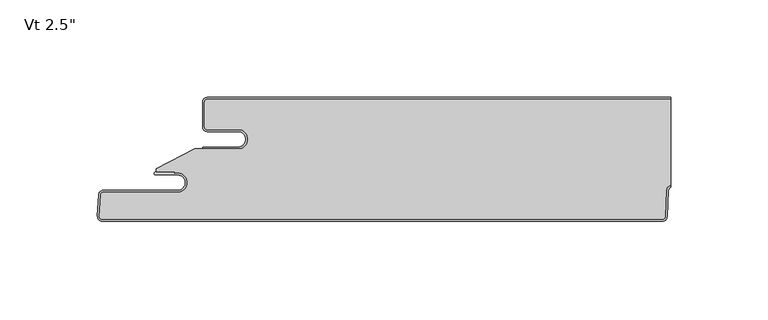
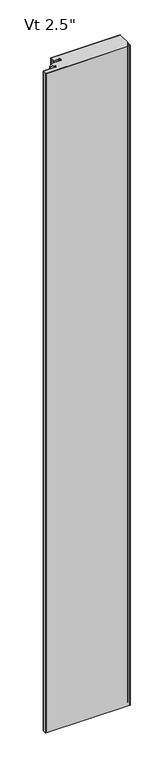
"""IFC4 building model written with IfcOpenShell, lengths in millimetres: plate geometry."""

import ifcopenshell
import ifcopenshell.guid

model = None  # the IFC model being written
_history = None  # IfcOwnerHistory: only IFC2X3 demands one
_inside = {}  # id of a spatial element -> (the spatial element, [elements in it])
_under = {}  # id of a project, library or spatial element -> (it, [spatial elements below it])
_declared = {}  # id of a project -> (the project, [libraries it declares])
_typed = {}  # id of a type object -> (the type object, [elements of that type])
_made_of = {}  # id of a material, layer set ... -> (it, [elements and type objects made of it])


def new_model(schema):
    """Start an empty IFC model of exactly this schema.

    Asked for "IFC4X3", IfcOpenShell would pick the latest addendum, in which some entities
    have other attributes; the version numbers below select the first issue.
    IFC2X3 requires an IfcOwnerHistory on every rooted entity: one is made here for all.
    """
    global model, _history
    if schema == "IFC4X3":
        model = ifcopenshell.file(schema_version=(4, 3, 0, 0))
    else:
        model = ifcopenshell.file(schema=schema)
    _inside.clear()
    _under.clear()
    _declared.clear()
    _typed.clear()
    _made_of.clear()
    _history = None
    if model.schema == "IFC2X3":
        org = make("IfcOrganization", Name="unknown")
        user = make(
            "IfcPersonAndOrganization",
            ThePerson=make("IfcPerson", FamilyName="unknown"),
            TheOrganization=org,
        )
        app = make(
            "IfcApplication",
            ApplicationDeveloper=org,
            Version="unknown",
            ApplicationFullName="unknown",
            ApplicationIdentifier="unknown",
        )
        _history = make(
            "IfcOwnerHistory",
            OwningUser=user,
            OwningApplication=app,
            ChangeAction="ADDED",
            CreationDate=0,
        )
    return model


def make(cls, **values):
    """One entity of the class cls with the attributes given. An attribute that is None is left unset."""
    return model.create_entity(
        cls, **{name: value for name, value in values.items() if value is not None}
    )


def rooted(cls, **values):
    """An entity with a GlobalId (a new one), such as an element, a storey or a relation."""
    return make(cls, GlobalId=ifcopenshell.guid.new(), OwnerHistory=_history, **values)


def si_unit(unit_type, name, prefix=None):
    """IfcSIUnit, for example si_unit("LENGTHUNIT", "METRE", prefix="MILLI")."""
    return make("IfcSIUnit", UnitType=unit_type, Prefix=prefix, Name=name)


def assignment(units):
    """IfcUnitAssignment: the units of a project."""
    return None if units is None else make("IfcUnitAssignment", Units=units)


def point(xyz):
    """IfcCartesianPoint."""
    return None if xyz is None else make("IfcCartesianPoint", Coordinates=xyz)


def direction(xyz):
    """IfcDirection."""
    return None if xyz is None else make("IfcDirection", DirectionRatios=xyz)


def frame(location, z_axis=None, x_axis=None):
    """IfcAxis2Placement3D, a coordinate frame: its origin and axes. An axis left out is left unset."""
    return make(
        "IfcAxis2Placement3D",
        Location=point(location),
        Axis=direction(z_axis),
        RefDirection=direction(x_axis),
    )


def frame_2d(location, x_axis=None):
    """IfcAxis2Placement2D, a coordinate frame in the plane: its origin and x axis."""
    return make(
        "IfcAxis2Placement2D", Location=point(location), RefDirection=direction(x_axis)
    )


def origin():
    """The frame at (0, 0, 0) with its axes left unset."""
    return frame((0.0, 0.0, 0.0))


def origin_with_axes():
    """The frame at (0, 0, 0) with the z axis (0, 0, 1) and the x axis (1, 0, 0) written out."""
    return frame((0.0, 0.0, 0.0), z_axis=(0.0, 0.0, 1.0), x_axis=(1.0, 0.0, 0.0))


def place(relative_to, where):
    """IfcLocalPlacement: puts the frame where relative to a parent placement (None: the world)."""
    return make(
        "IfcLocalPlacement", PlacementRelTo=relative_to, RelativePlacement=where
    )


def context(
    kind, dimensions, precision=None, world=None, true_north=None, identifier=None
):
    """IfcGeometricRepresentationContext, for example the 3D "Model" context."""
    return make(
        "IfcGeometricRepresentationContext",
        ContextIdentifier=identifier,
        ContextType=kind,
        CoordinateSpaceDimension=dimensions,
        Precision=precision,
        WorldCoordinateSystem=world,
        TrueNorth=true_north,
    )


def project(units=None, contexts=None):
    """IfcProject with its units and contexts."""
    return rooted(
        "IfcProject",
        Name="project",
        RepresentationContexts=contexts,
        UnitsInContext=assignment(units),
    )


def spatial(cls, under=None, at=None, **own):
    """A site, building, storey or space (cls), placed at a placement, below another one or the project."""
    s = rooted(cls, ObjectPlacement=at, **own)
    if under is not None:
        _under.setdefault(under.id(), (under, []))[1].append(s)
    return s


def polyline(points):
    """IfcPolyline through the points."""
    return make("IfcPolyline", Points=[point(p) for p in points])


def circle_curve(where, radius):
    """IfcCircle in the frame where."""
    return make("IfcCircle", Position=where, Radius=radius)


def trimmed(basis, trim1, trim2, sense, master):
    """IfcTrimmedCurve: the piece of a basis curve between two trims."""
    return make(
        "IfcTrimmedCurve",
        BasisCurve=basis,
        Trim1=trim1,
        Trim2=trim2,
        SenseAgreement=sense,
        MasterRepresentation=master,
    )


def segment(curve, same_sense, transition):
    """IfcCompositeCurveSegment."""
    return make(
        "IfcCompositeCurveSegment",
        Transition=transition,
        SameSense=same_sense,
        ParentCurve=curve,
    )


def composite_curve(segments, self_intersect=None):
    """IfcCompositeCurve: segments joined end to end."""
    return make("IfcCompositeCurve", Segments=segments, SelfIntersect=self_intersect)


def outline(outer, holes=None, kind="AREA"):
    """IfcArbitraryClosedProfileDef: a profile drawn as a closed curve; with holes, ...WithVoids."""
    if holes is None:
        return make("IfcArbitraryClosedProfileDef", ProfileType=kind, OuterCurve=outer)
    return make(
        "IfcArbitraryProfileDefWithVoids",
        ProfileType=kind,
        OuterCurve=outer,
        InnerCurves=holes,
    )


def extrude(swept, where, along, depth):
    """IfcExtrudedAreaSolid: the profile swept, set in the frame where, extruded along a direction by depth."""
    return make(
        "IfcExtrudedAreaSolid",
        SweptArea=swept,
        Position=where,
        ExtrudedDirection=direction(along),
        Depth=depth,
    )


def shape(context_of_items, identifier, shape_type, items):
    """IfcShapeRepresentation: the items that make up one representation, for example the "Body"."""
    return make(
        "IfcShapeRepresentation",
        ContextOfItems=context_of_items,
        RepresentationIdentifier=identifier,
        RepresentationType=shape_type,
        Items=items,
    )


def source(mapping_origin, context_of_items, identifier, shape_type, items):
    """IfcRepresentationMap: a shape defined once, which mapped items show again and again."""
    return make(
        "IfcRepresentationMap",
        MappingOrigin=mapping_origin,
        MappedRepresentation=shape(context_of_items, identifier, shape_type, items),
    )


def transform(
    local_origin,
    x_axis=None,
    y_axis=None,
    z_axis=None,
    scale=None,
    scale2=None,
    scale3=None,
    uniform=True,
):
    """IfcCartesianTransformationOperator3D, or its non-uniform kind. x_axis, y_axis, z_axis: its Axis1, 2, 3."""
    if uniform:
        return make(
            "IfcCartesianTransformationOperator3D",
            Axis1=direction(x_axis),
            Axis2=direction(y_axis),
            LocalOrigin=point(local_origin),
            Scale=scale,
            Axis3=direction(z_axis),
        )
    return make(
        "IfcCartesianTransformationOperator3DnonUniform",
        Axis1=direction(x_axis),
        Axis2=direction(y_axis),
        LocalOrigin=point(local_origin),
        Scale=scale,
        Axis3=direction(z_axis),
        Scale2=scale2,
        Scale3=scale3,
    )


def mapped(mapping_source, mapping_target):
    """IfcMappedItem: shows the shape of a source again, moved by a transform."""
    return make(
        "IfcMappedItem", MappingSource=mapping_source, MappingTarget=mapping_target
    )


def made_of(thing, what):
    """Note that an element or type object is made of a material, layer set ...; save() writes the relation."""
    if what is not None:
        _made_of.setdefault(what.id(), (what, []))[1].append(thing)
    return thing


def element(
    cls,
    number,
    at=None,
    inside=None,
    cuts=None,
    type_object=None,
    material=None,
    context=None,
    identifier="Body",
    shape_type=None,
    held_by="IfcProductDefinitionShape",
    body=None,
    shapes=None,
    **own,
):
    """One element of the class cls, such as IfcWall. Its Tag is "e" and its number.

    at: its placement. inside: the storey or other place that contains it. cuts: it is an
    opening in that element (IfcRelVoidsElement). A single representation is given by context,
    identifier, shape_type and body (its items); several are given by shapes. held_by: the class
    of the entity that holds the representations. save() writes the other relations.
    """
    e = rooted(cls, Tag="e%d" % number, ObjectPlacement=at, **own)
    if body is not None:
        shapes = [shape(context, identifier, shape_type, body)]
    if shapes is not None:
        e.Representation = make(held_by, Representations=shapes)
    if inside is not None:
        _inside.setdefault(inside.id(), (inside, []))[1].append(e)
    if cuts is not None:
        rooted(
            "IfcRelVoidsElement", RelatingBuildingElement=cuts, RelatedOpeningElement=e
        )
    if type_object is not None:
        _typed.setdefault(type_object.id(), (type_object, []))[1].append(e)
    return made_of(e, material)


def aggregate(whole, parts):
    """IfcRelAggregates: a whole, such as a stair, and the parts it consists of."""
    return rooted("IfcRelAggregates", RelatingObject=whole, RelatedObjects=parts)


def save(model, path):
    """Write the relations noted so far, then the file.

    IfcRelAggregates (storeys below a building ...), IfcRelContainedInSpatialStructure (elements
    in a storey), IfcRelDefinesByType, IfcRelAssociatesMaterial and IfcRelDeclares: one each for
    every whole, place, type object, material and project.
    """
    for whole, parts in _under.values():
        aggregate(whole, parts)
    for where, things in _inside.values():
        rooted(
            "IfcRelContainedInSpatialStructure",
            RelatedElements=things,
            RelatingStructure=where,
        )
    for kind, things in _typed.values():
        rooted("IfcRelDefinesByType", RelatedObjects=things, RelatingType=kind)
    for what, things in _made_of.values():
        rooted("IfcRelAssociatesMaterial", RelatedObjects=things, RelatingMaterial=what)
    for by, libraries in _declared.values():
        rooted("IfcRelDeclares", RelatingContext=by, RelatedDefinitions=libraries)
    model.write(path)


def plate_451096ce(model_context):
    return source(origin(), model_context, "Body", "SweptSolid", [
        extrude(outline(composite_curve([segment(polyline([(-101.3437498, -16.4625), (-117.2187498, -16.4625)]), True, "CONTINUOUS"), segment(trimmed(circle_curve(frame_2d((-117.2187498, -15.08125)), 1.38125), [point((-117.2187498, -16.4625))], [point((-118.5999998, -15.08125))], False, "CARTESIAN"), True, "CONTINUOUS"), segment(polyline([(-118.5999998, -15.08125), (-118.5999998, -2.38125)]), True, "CONTINUOUS"), segment(trimmed(circle_curve(frame_2d((-117.2187498, -2.38125)), 1.38125), [point((-118.5999998, -2.38125))], [point((-117.2187498, -1.0))], False, "CARTESIAN"), True, "CONTINUOUS"), segment(polyline([(-117.2187498, -1.0), (120.4062498, -1.0), (120.4062498, -45.091556)]), True, "CONTINUOUS"), segment(trimmed(circle_curve(frame_2d((120.9323848, -47.625)), 2.5875), [point((120.4062498, -45.091556))], [point((118.3484309, -47.4895807))], True, "CARTESIAN"), True, "CONTINUOUS"), segment(polyline([(118.3484309, -47.4895807), (117.6303679, -61.191039)]), True, "CONTINUOUS"), segment(trimmed(circle_curve(frame_2d((116.2510108, -61.11875)), 1.38125), [point((117.6303679, -61.191039))], [point((116.2510108, -62.5))], False, "CARTESIAN"), True, "CONTINUOUS"), segment(polyline([(116.2510108, -62.5), (-171.0799534, -62.5)]), True, "CONTINUOUS"), segment(trimmed(circle_curve(frame_2d((-171.0799534, -61.11875)), 1.38125), [point((-171.0799534, -62.5))], [point((-172.4593104, -61.046461))], False, "CARTESIAN"), True, "CONTINUOUS"), segment(polyline([(-172.4593104, -61.046461), (-171.876929, -49.933961)]), True, "CONTINUOUS"), segment(trimmed(circle_curve(frame_2d((-170.4975719, -50.00625)), 1.38125), [point((-171.876929, -49.933961))], [point((-170.4975719, -48.625))], False, "CARTESIAN"), True, "CONTINUOUS"), segment(polyline([(-170.4975719, -48.625), (-132.3142673, -48.625)]), True, "CONTINUOUS"), segment(trimmed(circle_curve(frame_2d((-132.3142673, -43.65625)), 4.96875), [point((-132.3142673, -48.625))], [point((-132.3142673, -38.6875))], True, "CARTESIAN"), True, "CONTINUOUS"), segment(polyline([(-132.3142673, -38.6875), (-133.9017673, -38.89375), (-133.9017673, -38.1), (-143.4124998, -38.1), (-143.4124998, -36.5326309), (-123.5260921, -26.4), (-101.3437498, -26.4)]), True, "CONTINUOUS"), segment(trimmed(circle_curve(frame_2d((-101.3437498, -21.43125)), 4.96875), [point((-101.3437498, -26.4))], [point((-101.3437498, -16.4625))], True, "CARTESIAN"), True, "CONTINUOUS")], self_intersect=False)), origin_with_axes(), (0.0, 0.0, 1.0), 2400.0),
        extrude(outline(composite_curve([segment(polyline([(-119.5999998, -25.4), (-101.3437498, -25.4)]), True, "CONTINUOUS"), segment(trimmed(circle_curve(frame_2d((-101.3437498, -21.43125)), 3.96875), [point((-101.3437498, -25.4))], [point((-101.3437498, -17.4625))], True, "CARTESIAN"), True, "CONTINUOUS"), segment(polyline([(-101.3437498, -17.4625), (-117.2187498, -17.4625)]), True, "CONTINUOUS"), segment(trimmed(circle_curve(frame_2d((-117.2187498, -15.08125)), 2.38125), [point((-117.2187498, -17.4625))], [point((-119.5999998, -15.08125))], False, "CARTESIAN"), True, "CONTINUOUS"), segment(polyline([(-119.5999998, -15.08125), (-119.5999998, -2.38125)]), True, "CONTINUOUS"), segment(trimmed(circle_curve(frame_2d((-117.2187498, -2.38125)), 2.38125), [point((-119.5999998, -2.38125))], [point((-117.2187498, 0.0))], False, "CARTESIAN"), True, "CONTINUOUS"), segment(polyline([(-117.2187498, 0.0), (120.4062498, 0.0), (120.4062498, -1.0), (-117.2187498, -1.0)]), True, "CONTINUOUS"), segment(trimmed(circle_curve(frame_2d((-117.2187498, -2.38125)), 1.38125), [point((-117.2187498, -1.0))], [point((-118.5999998, -2.38125))], True, "CARTESIAN"), True, "CONTINUOUS"), segment(polyline([(-118.5999998, -2.38125), (-118.5999998, -15.08125)]), True, "CONTINUOUS"), segment(trimmed(circle_curve(frame_2d((-117.2187498, -15.08125)), 1.38125), [point((-118.5999998, -15.08125))], [point((-117.2187498, -16.4625))], True, "CARTESIAN"), True, "CONTINUOUS"), segment(polyline([(-117.2187498, -16.4625), (-101.3437498, -16.4625)]), True, "CONTINUOUS"), segment(trimmed(circle_curve(frame_2d((-101.3437498, -21.43125)), 4.96875), [point((-101.3437498, -16.4625))], [point((-101.3437498, -26.4))], False, "CARTESIAN"), True, "CONTINUOUS"), segment(polyline([(-101.3437498, -26.4), (-119.5999998, -26.4), (-119.5999998, -25.4)]), True, "CONTINUOUS")], self_intersect=False)), origin_with_axes(), (0.0, 0.0, 1.0), 2400.0),
        extrude(outline(composite_curve([segment(polyline([(-143.6252048, -38.1), (-133.9017673, -38.1), (-133.9017673, -38.89375), (-132.3142673, -38.6875)]), True, "CONTINUOUS"), segment(trimmed(circle_curve(frame_2d((-132.3142673, -43.65625)), 4.96875), [point((-132.3142673, -38.6875))], [point((-132.3142673, -48.625))], False, "CARTESIAN"), True, "CONTINUOUS"), segment(polyline([(-132.3142673, -48.625), (-170.4975719, -48.625)]), True, "CONTINUOUS"), segment(trimmed(circle_curve(frame_2d((-170.4975719, -50.00625)), 1.38125), [point((-170.4975719, -48.625))], [point((-171.876929, -49.933961))], True, "CARTESIAN"), True, "CONTINUOUS"), segment(polyline([(-171.876929, -49.933961), (-172.4593104, -61.046461)]), True, "CONTINUOUS"), segment(trimmed(circle_curve(frame_2d((-171.0799534, -61.11875)), 1.38125), [point((-172.4593104, -61.046461))], [point((-171.0799534, -62.5))], True, "CARTESIAN"), True, "CONTINUOUS"), segment(polyline([(-171.0799534, -62.5), (116.2510108, -62.5)]), True, "CONTINUOUS"), segment(trimmed(circle_curve(frame_2d((116.2510108, -61.11875)), 1.38125), [point((116.2510108, -62.5))], [point((117.6303679, -61.191039))], True, "CARTESIAN"), True, "CONTINUOUS"), segment(polyline([(117.6303679, -61.191039), (118.3484309, -47.4895807)]), True, "CONTINUOUS"), segment(trimmed(circle_curve(frame_2d((120.9323848, -47.625)), 2.5875), [point((118.3484309, -47.4895807))], [point((120.4062498, -45.091556))], False, "CARTESIAN"), True, "CONTINUOUS"), segment(polyline([(120.4062498, -45.091556), (120.4062498, -46.1272222)]), True, "CONTINUOUS"), segment(trimmed(circle_curve(frame_2d((120.9323848, -47.625)), 1.5875), [point((120.4062498, -46.1272222))], [point((119.3470604, -47.5419167))], True, "CARTESIAN"), True, "CONTINUOUS"), segment(polyline([(119.3470604, -47.5419167), (118.6289974, -61.243375)]), True, "CONTINUOUS"), segment(trimmed(circle_curve(frame_2d((116.2510108, -61.11875)), 2.38125), [point((118.6289974, -61.243375))], [point((116.2510108, -63.5))], False, "CARTESIAN"), True, "CONTINUOUS"), segment(polyline([(116.2510108, -63.5), (-171.0799534, -63.5)]), True, "CONTINUOUS"), segment(trimmed(circle_curve(frame_2d((-171.0799534, -61.11875)), 2.38125), [point((-171.0799534, -63.5))], [point((-173.4579399, -60.994125))], False, "CARTESIAN"), True, "CONTINUOUS"), segment(polyline([(-173.4579399, -60.994125), (-172.8755585, -49.881625)]), True, "CONTINUOUS"), segment(trimmed(circle_curve(frame_2d((-170.4975719, -50.00625)), 2.38125), [point((-172.8755585, -49.881625))], [point((-170.4975719, -47.625))], False, "CARTESIAN"), True, "CONTINUOUS"), segment(polyline([(-170.4975719, -47.625), (-132.3142673, -47.625)]), True, "CONTINUOUS"), segment(trimmed(circle_curve(frame_2d((-132.3142673, -43.65625)), 3.96875), [point((-132.3142673, -47.625))], [point((-132.3142673, -39.6875))], True, "CARTESIAN"), True, "CONTINUOUS"), segment(polyline([(-132.3142673, -39.6875), (-143.6252048, -39.6875)]), True, "CONTINUOUS"), segment(trimmed(circle_curve(frame_2d((-143.6252048, -38.89375)), 0.79375), [point((-143.6252048, -39.6875))], [point((-143.6252048, -38.1))], False, "CARTESIAN"), True, "CONTINUOUS")], self_intersect=False)), origin_with_axes(), (0.0, 0.0, 1.0), 2400.0),
    ])


if __name__ == "__main__":
    model = new_model("IFC4")
    model_context = context("Model", 3, world=origin())
    ifc_project = project(units=[si_unit("LENGTHUNIT", "METRE", prefix="MILLI")], contexts=[model_context])
    site = spatial("IfcSite", under=ifc_project)
    building = spatial("IfcBuilding", under=site)
    placement = place(None, origin())
    plate_shape = plate_451096ce(model_context)
    element("IfcPlate", 1, ObjectType="KIP-12-DWHR-R19-CP-Vt-F : Vt 2.5\"", at=placement, inside=building, context=model_context, shape_type="MappedRepresentation", body=[
        mapped(plate_shape, transform((0.0, 0.0, 0.0), x_axis=(1.0, 0.0, 0.0), y_axis=(0.0, 1.0, 0.0), z_axis=(0.0, 0.0, 1.0))),
    ])
    save(model, "model.ifc")
